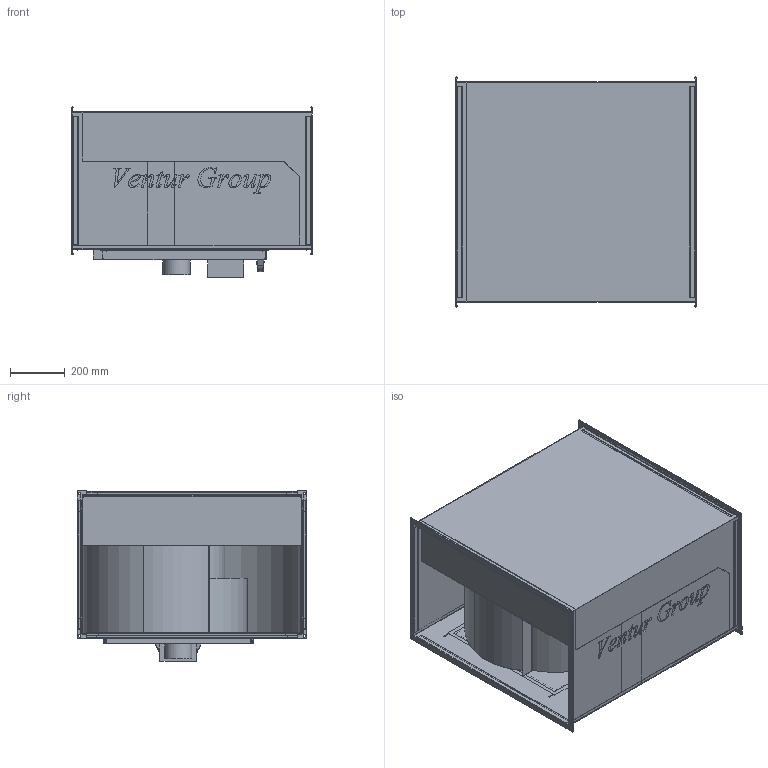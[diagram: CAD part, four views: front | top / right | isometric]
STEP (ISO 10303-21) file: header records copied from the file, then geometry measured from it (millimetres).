
FILE_DESCRIPTION(/* description */ (''),/* implementation_level */ '2;1');
FILE_NAME(/* name */ 'C:\Users\M.Janczarek\Documents\Modele uproszczone\IBF\IBF4_500S 41010190\IBF4_500S 41010190\IBF4_500S 41010190.stp',/* time_stamp */ '2018-03-26T13:33:20+02:00',/* author */ ('M.Janczarek'),/* organization */ (''),/* preprocessor_version */ 'ST-DEVELOPER v16.5',/* originating_system */ 'Autodesk Inventor 2017',/* authorisation */ '');
FILE_SCHEMA (('AUTOMOTIVE_DESIGN { 1 0 10303 214 3 1 1 }'));
Length unit declared in the file: millimetre
Products named in the file (1): IBF4_500S 41010190
Bounding box: 880 x 841 x 624.1 mm (x, y, z)
Volume: 60207307.7 mm3; surface area: 9633183.2 mm2
Topology: 1 solids, 1 shells, 1234 faces, 3721 edges, 2476 vertices
Faces by surface type: plane 738, bspline 283, cylinder 213
Full cylindrical faces by diameter (mm): 9 x8, 100 x1, 340 x2, 504 x1
Entity records: 44171 total; most frequent: CARTESIAN_POINT 11345, ORIENTED_EDGE 7354, DIRECTION 5518, EDGE_CURVE 3677, LINE 2700, VECTOR 2700, VERTEX_POINT 2420, AXIS2_PLACEMENT_3D 1409
